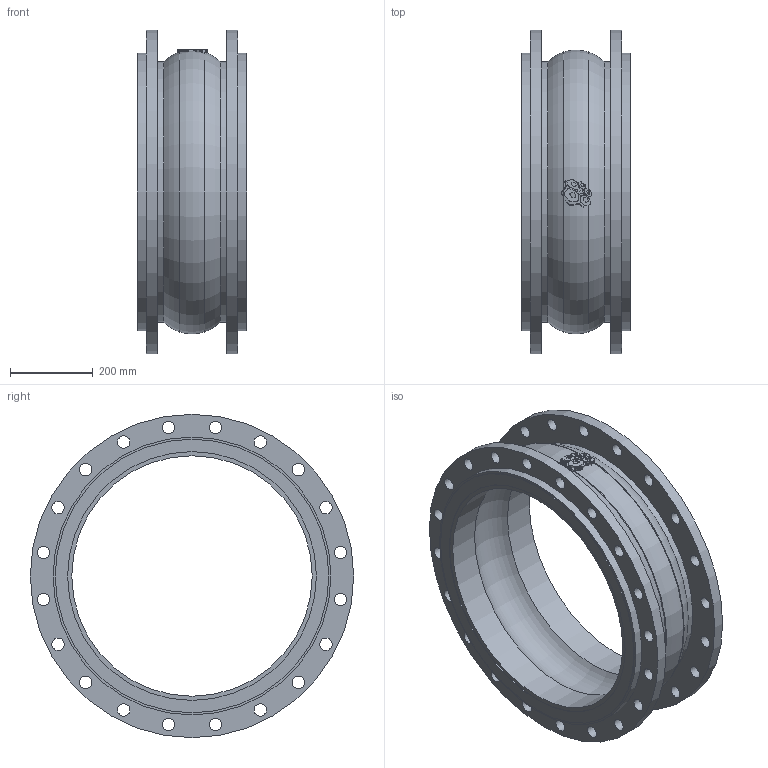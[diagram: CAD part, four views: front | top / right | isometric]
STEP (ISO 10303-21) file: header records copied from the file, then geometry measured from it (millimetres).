
FILE_DESCRIPTION(('STEP AP203'), '1');
FILE_NAME('3D_500-600-EPDM-FF', '', ('UNSPECIFIED'), ('UNSPECIFIED'), 'C3D Converter', 'C3D Toolkit', '');
FILE_SCHEMA(('CONFIG_CONTROL_DESIGN'));
Length unit declared in the file: millimetre
Bounding box: 265 x 780 x 780 mm (x, y, z)
Volume: 23423892.1 mm3; surface area: 1962251.6 mm2
Topology: 9 solids, 9 shells, 897 faces, 2629 edges, 1758 vertices
Faces by surface type: plane 839, cylinder 52, torus 6
Full cylindrical faces by diameter (mm): 30 x40, 580 x2, 600 x2, 630 x2, 660 x2, 670 x2, 780 x2
Entity records: 36440 total; most frequent: CARTESIAN_POINT 5227, ORIENTED_EDGE 5142, DIRECTION 4499, EDGE_CURVE 2571, LINE 2439, VECTOR 2439, VERTEX_POINT 1758, EDGE_LOOP 1057
